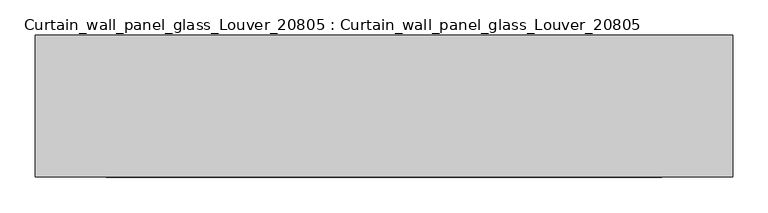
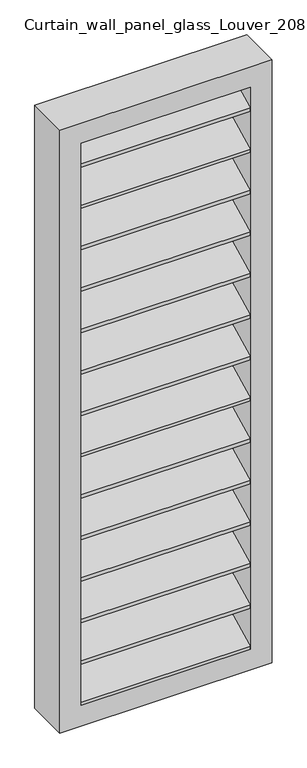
"""IFC4 building model written with IfcOpenShell, lengths in millimetres: plate geometry, Curtain_wall_panel_glass_Louver_20805 : Curtain_wall_panel_glass_Louver_20805."""

from ifc_helpers import new_model, si_unit, frame, origin, place, context, project, spatial, polyline, outline, extrude, source, transform, mapped, element, save


def curtain_wall_panel_glass_louver_20805_curtain_wall_panel_cdbae222(model_context):
    return source(origin(), model_context, "Body", "SweptSolid", [
        extrude(outline(polyline([(200.0, 199.3849981), (0.0, 100.0), (0.0, 116.7499328), (200.0, 216.1349309), (200.0, 199.3849981)])), frame((-391.5, 0.0, 0.0), z_axis=(1.0, 0.0, 0.0), x_axis=(0.0, 1.0, 0.0)), (0.0, 0.0, 1.0), 783.0000001),
        extrude(outline(polyline([(200.0, 2833.2500672), (0.0, 2733.8650691), (0.0, 2750.6150019), (200.0, 2850.0), (200.0, 2833.2500672)])), frame((-391.5, 0.0, 0.0), z_axis=(1.0, 0.0, 0.0), x_axis=(0.0, 1.0, 0.0)), (0.0, 0.0, 1.0), 783.0000001),
        extrude(outline(polyline([(200.0, 401.9900034), (0.0, 302.6050053), (0.0, 319.3549382), (200.0, 418.7399363), (200.0, 401.9900034)])), frame((-391.5, 0.0, 0.0), z_axis=(1.0, 0.0, 0.0), x_axis=(0.0, 1.0, 0.0)), (0.0, 0.0, 1.0), 783.0000001),
        extrude(outline(polyline([(200.0, 604.5950087), (0.0, 505.2100106), (0.0, 521.9599435), (200.0, 621.3449416), (200.0, 604.5950087)])), frame((-391.5, 0.0, 0.0), z_axis=(1.0, 0.0, 0.0), x_axis=(0.0, 1.0, 0.0)), (0.0, 0.0, 1.0), 783.0000001),
        extrude(outline(polyline([(200.0, 807.200014), (0.0, 707.8150159), (0.0, 724.5649488), (200.0, 823.9499469), (200.0, 807.200014)])), frame((-391.5, 0.0, 0.0), z_axis=(1.0, 0.0, 0.0), x_axis=(0.0, 1.0, 0.0)), (0.0, 0.0, 1.0), 783.0000001),
        extrude(outline(polyline([(200.0, 1009.8050193), (0.0, 910.4200212), (0.0, 927.1699541), (200.0, 1026.5549522), (200.0, 1009.8050193)])), frame((-391.5, 0.0, 0.0), z_axis=(1.0, 0.0, 0.0), x_axis=(0.0, 1.0, 0.0)), (0.0, 0.0, 1.0), 783.0000001),
        extrude(outline(polyline([(200.0, 1212.4100247), (0.0, 1113.0250266), (0.0, 1129.7749594), (200.0, 1229.1599575), (200.0, 1212.4100247)])), frame((-391.5, 0.0, 0.0), z_axis=(1.0, 0.0, 0.0), x_axis=(0.0, 1.0, 0.0)), (0.0, 0.0, 1.0), 783.0000001),
        extrude(outline(polyline([(200.0, 1415.01503), (0.0, 1315.6300319), (0.0, 1332.3799647), (200.0, 1431.7649628), (200.0, 1415.01503)])), frame((-391.5, 0.0, 0.0), z_axis=(1.0, 0.0, 0.0), x_axis=(0.0, 1.0, 0.0)), (0.0, 0.0, 1.0), 783.0000001),
        extrude(outline(polyline([(200.0, 1617.6200353), (0.0, 1518.2350372), (0.0, 1534.98497), (200.0, 1634.3699681), (200.0, 1617.6200353)])), frame((-391.5, 0.0, 0.0), z_axis=(1.0, 0.0, 0.0), x_axis=(0.0, 1.0, 0.0)), (0.0, 0.0, 1.0), 783.0000001),
        extrude(outline(polyline([(200.0, 1820.2250406), (0.0, 1720.8400425), (0.0, 1737.5899753), (200.0, 1836.9749734), (200.0, 1820.2250406)])), frame((-391.5, 0.0, 0.0), z_axis=(1.0, 0.0, 0.0), x_axis=(0.0, 1.0, 0.0)), (0.0, 0.0, 1.0), 783.0000001),
        extrude(outline(polyline([(200.0, 2022.8300459), (0.0, 1923.4450478), (0.0, 1940.1949807), (200.0, 2039.5799788), (200.0, 2022.8300459)])), frame((-391.5, 0.0, 0.0), z_axis=(1.0, 0.0, 0.0), x_axis=(0.0, 1.0, 0.0)), (0.0, 0.0, 1.0), 783.0000001),
        extrude(outline(polyline([(200.0, 2225.4350512), (0.0, 2126.0500531), (0.0, 2142.799986), (200.0, 2242.1849841), (200.0, 2225.4350512)])), frame((-391.5, 0.0, 0.0), z_axis=(1.0, 0.0, 0.0), x_axis=(0.0, 1.0, 0.0)), (0.0, 0.0, 1.0), 783.0000001),
        extrude(outline(polyline([(200.0, 2428.0400565), (0.0, 2328.6550584), (0.0, 2345.4049913), (200.0, 2444.7899894), (200.0, 2428.0400565)])), frame((-391.5, 0.0, 0.0), z_axis=(1.0, 0.0, 0.0), x_axis=(0.0, 1.0, 0.0)), (0.0, 0.0, 1.0), 783.0000001),
        extrude(outline(polyline([(200.0, 2630.6450618), (0.0, 2531.2600637), (0.0, 2548.0099966), (200.0, 2647.3949947), (200.0, 2630.6450618)])), frame((-391.5, 0.0, 0.0), z_axis=(1.0, 0.0, 0.0), x_axis=(0.0, 1.0, 0.0)), (0.0, 0.0, 1.0), 783.0000001),
        extrude(outline(polyline([(2950.0, -491.5), (0.0, -491.5), (0.0, 491.5), (2950.0, 491.5), (2950.0, -491.5)]), holes=[polyline([(2850.0, -391.5), (2850.0, 391.5), (100.0, 391.5), (100.0, -391.5), (2850.0, -391.5)])]), frame((0.0, 0.0, 0.0), z_axis=(0.0, 1.0, 0.0), x_axis=(0.0, 0.0, 1.0)), (0.0, 0.0, 1.0), 200.0),
    ])


if __name__ == "__main__":
    model = new_model("IFC4")
    model_context = context("Model", 3, world=origin())
    ifc_project = project(units=[si_unit("LENGTHUNIT", "METRE", prefix="MILLI")], contexts=[model_context])
    site = spatial("IfcSite", under=ifc_project)
    building = spatial("IfcBuilding", under=site)
    placement = place(None, origin())
    curtain_wall_panel_glass_louver_20805_curtain_wall_panel_shape = curtain_wall_panel_glass_louver_20805_curtain_wall_panel_cdbae222(model_context)
    element("IfcPlate", 1, ObjectType="Curtain_wall_panel_glass_Louver_20805 : Curtain_wall_panel_glass_Louver_20805", at=placement, inside=building, context=model_context, shape_type="MappedRepresentation", body=[
        mapped(curtain_wall_panel_glass_louver_20805_curtain_wall_panel_shape, transform((0.0, 0.0, 0.0), x_axis=(1.0, 0.0, 0.0), y_axis=(0.0, 1.0, 0.0), z_axis=(0.0, 0.0, 1.0))),
    ])
    save(model, "model.ifc")
